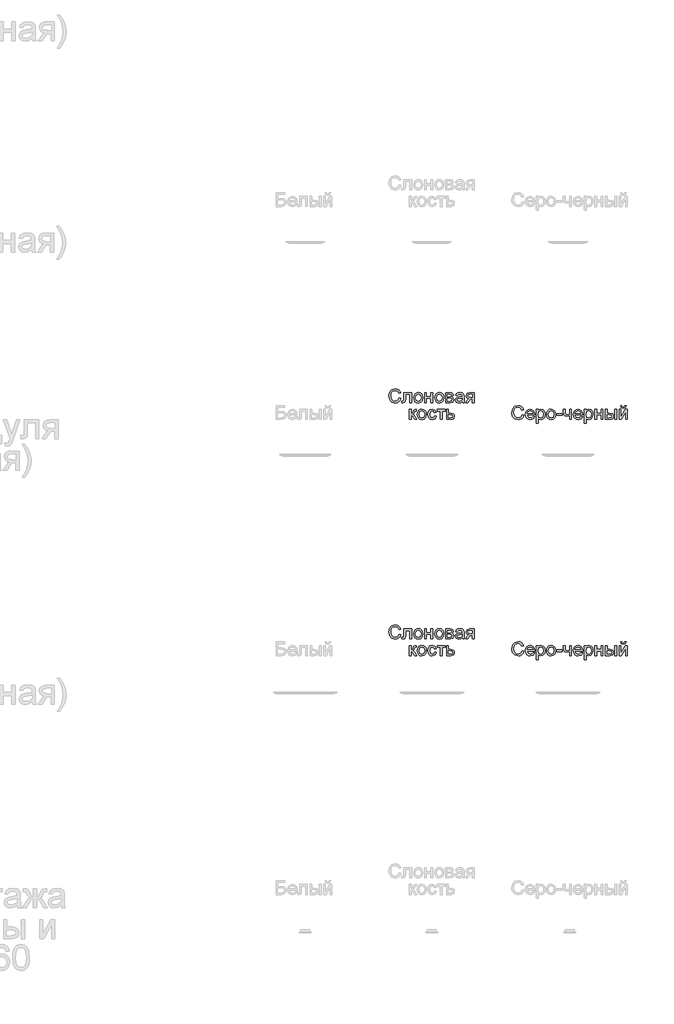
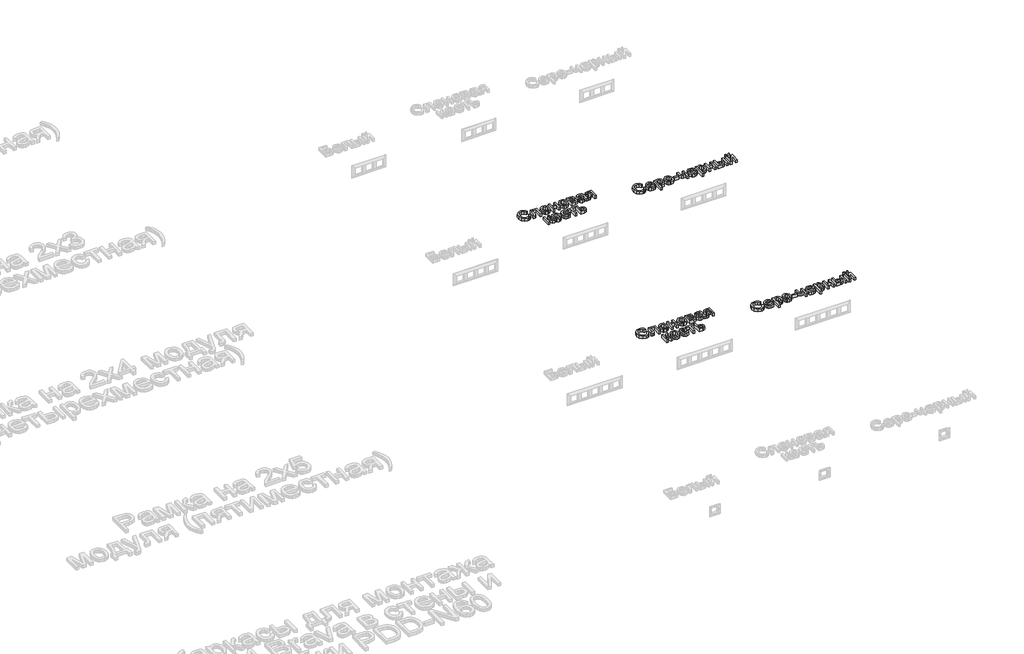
# One storey, part 39 of 47: 4 proxies.
"""IFC4 building model written with IfcOpenShell, lengths in millimetres."""

from ifc_helpers import new_model, si_unit, origin, origin_with_axes, place, context, project, spatial, polyline, outline, extrude, element, save

model = new_model("IFC4")

# Units and contexts
model_context = context("Model", 3, world=origin())
ifc_project = project(units=[si_unit("LENGTHUNIT", "METRE", prefix="MILLI")], contexts=[model_context])

# Site, building, storey
site = spatial("IfcSite", under=ifc_project)
building = spatial("IfcBuilding", under=site)
storey = spatial("IfcBuildingStorey", under=building, Name="Этаж 01", Elevation=0.0)

# Proxies
placement = place(None, origin())
element("IfcBuildingElementProxy", 1, Name="80 мм Arial", ObjectType="80 мм Arial", at=placement, inside=storey, context=model_context, shape_type="SweptSolid", body=[
    extrude(outline(polyline([(554.1498044, -633.9552001), (564.1954354, -636.5450894), (559.5601223, -648.2510945), (552.2858689, -656.8031246), (542.7307473, -662.0344066), (531.252829, -663.7781672), (510.3473215, -658.5002869), (498.0845883, -643.2160162), (493.8760183, -621.7317077), (498.6339588, -599.8942325), (512.162206, -585.7381333), (531.4686531, -580.9017114), (542.48304, -582.4664361), (551.5893457, -587.1606104), (558.5030747, -594.6948336), (562.9397315, -604.7797054), (552.8941005, -607.1733909), (544.6535438, -594.822366), (531.0762456, -590.9473424), (515.3603268, -595.2442041), (506.482108, -606.7809834), (503.9216493, -621.7120873), (506.9529969, -639.0172564), (516.3903964, -650.0733366), (530.25219, -653.7325362), (545.6247523, -648.7489614), (554.1498044, -633.9552001)])), origin_with_axes(), (0.0, 0.0, 1.0), 20.0),
    extrude(outline(polyline([(581.7752897, -603.5043811), (626.9806292, -603.5043811), (626.9806292, -662.4636022), (616.9349982, -662.4636022), (616.9349982, -613.5500122), (591.8209207, -613.5500122), (591.8209207, -641.7052475), (591.1440178, -654.6939345), (587.4259571, -660.1778288), (578.63603, -662.5224633), (570.4739548, -662.0123336), (570.4739548, -652.4768323), (574.9670202, -652.4768323), (579.5091366, -651.8587906), (581.3240211, -649.8967533), (581.7752897, -641.1362567), (581.7752897, -603.5043811)])), origin_with_axes(), (0.0, 0.0, 1.0), 20.0),
    extrude(outline(polyline([(639.537668, -633.0134222), (641.7106243, -618.7837467), (648.2294933, -608.7822615), (656.2836564, -603.8820733), (665.9270698, -602.2486773), (676.480378, -604.2376926), (684.9097807, -610.2047385), (690.4353683, -619.6789262), (692.2772308, -632.1893666), (689.0202489, -650.0635264), (679.5337985, -660.1778288), (665.9270698, -663.7781672), (655.2462292, -661.7965095), (646.8266366, -655.8515365), (641.3599102, -646.1786926), (639.537668, -633.0134222)]), holes=[polyline([(649.583299, -632.9938019), (654.2333274, -648.5625679), (665.9270698, -653.7325362), (677.5815714, -648.5331373), (682.2315998, -632.6798759), (677.5521408, -617.4642766), (665.9270698, -612.2943083), (654.2333274, -617.4446562), (649.583299, -632.9938019)])]), origin_with_axes(), (0.0, 0.0, 1.0), 20.0),
    extrude(outline(polyline([(703.5785657, -603.5043811), (713.6241967, -603.5043811), (713.6241967, -626.1070509), (739.9939782, -626.1070509), (739.9939782, -603.5043811), (750.0396092, -603.5043811), (750.0396092, -662.5224633), (739.9939782, -662.5224633), (739.9939782, -636.1526819), (713.6241967, -636.1526819), (713.6241967, -662.5224633), (703.5785657, -662.5224633), (703.5785657, -603.5043811)])), origin_with_axes(), (0.0, 0.0, 1.0), 20.0),
    extrude(outline(polyline([(762.5966479, -633.0134222), (764.7696043, -618.7837467), (771.2884732, -608.7822615), (779.3426364, -603.8820733), (788.9860497, -602.2486773), (799.5393579, -604.2376926), (807.9687607, -610.2047385), (813.4943483, -619.6789262), (815.3362108, -632.1893666), (812.0792288, -650.0635264), (802.5927785, -660.1778288), (788.9860497, -663.7781672), (778.3052091, -661.7965095), (769.8856165, -655.8515365), (764.4188901, -646.1786926), (762.5966479, -633.0134222)]), holes=[polyline([(772.642279, -632.9938019), (777.2923074, -648.5625679), (788.9860497, -653.7325362), (800.6405513, -648.5331373), (805.2905798, -632.6798759), (800.6111208, -617.4642766), (788.9860497, -612.2943083), (777.2923074, -617.4446562), (772.642279, -632.9938019)])]), origin_with_axes(), (0.0, 0.0, 1.0), 20.0),
    extrude(outline(polyline([(826.6375457, -603.5043811), (848.7693265, -603.5043811), (860.9045272, -604.8483767), (867.7324171, -609.7730903), (870.5871814, -618.3570036), (868.8605885, -625.3320462), (863.6611897, -630.3058108), (870.410598, -635.7504643), (873.0985891, -645.2172943), (867.3498198, -658.2648424), (852.163651, -662.5224633), (826.6375457, -662.5224633), (826.6375457, -603.5043811)]), holes=[polyline([(836.6831767, -626.1070509), (846.6110855, -626.1070509), (854.8025912, -625.5969212), (858.7855269, -623.5564024), (860.5415503, -619.8677723), (857.4611518, -614.9430586), (846.9250114, -613.5500122), (836.6831767, -613.5500122), (836.6831767, -626.1070509)]), polyline([(836.6831767, -652.4768323), (849.004771, -652.4768323), (859.9333188, -650.6619478), (863.0529581, -644.3932386), (861.3361754, -639.5568167), (856.8627304, -636.7412931), (848.0237523, -636.1526819), (836.6831767, -636.1526819), (836.6831767, -652.4768323)])]), origin_with_axes(), (0.0, 0.0, 1.0), 20.0),
    extrude(outline(polyline([(923.3267442, -654.9882401), (913.585229, -661.7965095), (902.8234543, -663.7781672), (888.2357069, -659.0104166), (883.1442201, -646.8261649), (885.0670167, -638.8799138), (890.1192628, -633.1115241), (897.1531665, -629.8153014), (905.8449918, -628.3045327), (923.2678831, -624.851347), (923.3267442, -622.6146245), (920.5602716, -615.1981235), (909.4551404, -612.2943083), (899.2917872, -614.226915), (894.445555, -621.0842354), (884.399924, -619.8285315), (888.7458366, -610.018345), (897.496523, -604.2695757), (910.750085, -602.2486773), (922.9245265, -604.0341312), (929.8014673, -608.5173865), (932.8818659, -615.3354661), (933.3723752, -624.1253932), (933.3723752, -636.6235709), (933.8825049, -654.0758927), (935.883783, -662.5224633), (925.8381519, -662.5224633), (923.3267442, -654.9882401)]), holes=[polyline([(923.3267442, -634.8969781), (907.120316, -637.9773766), (898.4775417, -639.6058676), (894.5632773, -642.254618), (893.1898511, -646.1198315), (896.181958, -651.5546748), (904.962075, -653.7325362), (915.1254282, -651.3290405), (921.6786328, -645.5115999), (923.2678831, -637.7419322), (923.3267442, -634.8969781)])]), origin_with_axes(), (0.0, 0.0, 1.0), 20.0),
    extrude(outline(polyline([(992.3904574, -603.5043811), (992.3904574, -662.5224633), (982.3448264, -662.5224633), (982.3448264, -639.9197936), (976.8707423, -639.9197936), (969.4150005, -641.1951178), (962.4105274, -649.7692208), (954.4054151, -662.5224633), (942.7901543, -662.5224633), (952.875026, -646.3945167), (961.4295087, -638.0362377), (949.7357663, -631.9343017), (945.929414, -620.5544853), (951.1288128, -608.232891), (966.177639, -603.5043811), (992.3904574, -603.5043811)]), holes=[polyline([(982.3448264, -613.5500122), (969.1010746, -613.5500122), (958.3785407, -615.8750264), (955.975045, -621.3196799), (959.5165223, -627.8042132), (972.0637509, -629.8741625), (982.3448264, -629.8741625), (982.3448264, -613.5500122)])]), origin_with_axes(), (0.0, 0.0, 1.0), 20.0),
    extrude(outline(polyline([(613.7957385, -701.0842354), (623.8413695, -701.0842354), (623.8413695, -726.1983129), (630.5711575, -724.3932386), (636.0844823, -713.8767187), (640.6658395, -704.8022961), (644.7076363, -701.84943), (652.055466, -701.0842354), (653.9782626, -701.0842354), (653.9782626, -711.1887275), (651.2706511, -711.1298664), (646.3655578, -712.1893666), (642.9123722, -718.8014323), (638.8607651, -725.9530583), (633.1806671, -729.4552949), (639.5180476, -733.3646542), (645.7377059, -741.6003058), (656.4896703, -760.1023176), (645.0706132, -760.1023176), (634.5344729, -741.9927133), (629.2369721, -734.3309576), (623.8413695, -732.4768323), (623.8413695, -760.1023176), (613.7957385, -760.1023176), (613.7957385, -701.0842354)])), origin_with_axes(), (0.0, 0.0, 1.0), 20.0),
    extrude(outline(polyline([(660.256782, -730.5932765), (662.4297383, -716.3636009), (668.9486073, -706.3621158), (677.0027704, -701.4619276), (686.6461838, -699.8285315), (697.1994919, -701.8175469), (705.6288947, -707.7845928), (711.1544823, -717.2587805), (712.9963448, -729.7692208), (709.7393629, -747.6433807), (700.2529125, -757.757683), (686.6461838, -761.3580215), (675.9653432, -759.3763638), (667.5457506, -753.4313908), (662.0790241, -743.7585469), (660.256782, -730.5932765)]), holes=[polyline([(670.302413, -730.5736561), (674.9524414, -746.1424222), (686.6461838, -751.3123905), (698.3006854, -746.1129916), (702.9507138, -730.2597302), (698.2712548, -715.0441309), (686.6461838, -709.8741625), (674.9524414, -715.0245105), (670.302413, -730.5736561)])]), origin_with_axes(), (0.0, 0.0, 1.0), 20.0),
    extrude(outline(polyline([(761.968796, -738.7553517), (772.014427, -740.0110556), (769.2136188, -748.945683), (763.9504537, -755.6975439), (748.0187107, -761.3580215), (737.3329651, -759.3837215), (728.9771387, -753.4608213), (723.5839886, -743.8492911), (721.7862719, -730.8091006), (724.8568603, -714.1219733), (734.2157783, -703.3994394), (747.8813681, -699.8285315), (763.1558286, -704.7336248), (770.7587231, -718.6640897), (760.7130921, -719.9197936), (756.0532535, -712.3953805), (747.9598496, -709.8741625), (736.3151582, -714.8381169), (731.831903, -730.5344154), (736.2170563, -746.3778667), (747.6851644, -751.3123905), (757.1519944, -748.2319919), (761.968796, -738.7553517)])), origin_with_axes(), (0.0, 0.0, 1.0), 20.0),
    extrude(outline(polyline([(775.7815387, -701.0842354), (823.498286, -701.0842354), (823.498286, -711.1298664), (804.6627278, -711.1298664), (804.6627278, -760.1023176), (794.6170968, -760.1023176), (794.6170968, -711.1298664), (775.7815387, -711.1298664), (775.7815387, -701.0842354)])), origin_with_axes(), (0.0, 0.0, 1.0), 20.0),
    extrude(outline(polyline([(832.2882131, -701.0842354), (842.3338441, -701.0842354), (842.3338441, -722.4312013), (853.9098642, -722.4312013), (871.3719963, -727.463827), (875.9631636, -733.4504933), (877.4935527, -741.345241), (872.2843436, -754.598803), (865.5128624, -758.726439), (855.6168367, -760.1023176), (832.2882131, -760.1023176), (832.2882131, -701.0842354)]), holes=[polyline([(842.3338441, -750.0566866), (851.7123825, -750.0566866), (863.8279628, -747.9474965), (867.4479217, -741.3648613), (864.7697407, -735.1844438), (852.9092252, -732.4768323), (842.3338441, -732.4768323), (842.3338441, -750.0566866)])]), origin_with_axes(), (0.0, 0.0, 1.0), 20.0),
])
element("IfcBuildingElementProxy", 2, Name="80 мм Arial", ObjectType="80 мм Arial", at=placement, inside=storey, context=model_context, shape_type="SweptSolid", body=[
    extrude(outline(polyline([(1272.5444141, -731.5350544), (1282.5900451, -734.1249437), (1277.954732, -745.8309488), (1270.6804787, -754.3829789), (1261.125357, -759.6142608), (1249.6474387, -761.3580215), (1228.7419312, -756.0801411), (1216.4791981, -740.7958705), (1212.270628, -719.311562), (1217.0285685, -697.4740868), (1230.5568157, -683.3179876), (1249.8632628, -678.4815656), (1260.8776498, -680.0462904), (1269.9839554, -684.7404646), (1276.8976844, -692.2746879), (1281.3343413, -702.3595597), (1271.2887102, -704.7532452), (1263.0481536, -692.4022203), (1249.4708554, -688.5271966), (1233.7549366, -692.8240583), (1224.8767177, -704.3608377), (1222.3162591, -719.2919416), (1225.3476067, -736.5971107), (1234.7850061, -747.6531909), (1248.6467997, -751.3123905), (1264.019362, -746.3288157), (1272.5444141, -731.5350544)])), origin_with_axes(), (0.0, 0.0, 1.0), 20.0),
    extrude(outline(polyline([(1336.4675896, -742.5224633), (1346.3170169, -743.7781672), (1337.1052517, -756.7472338), (1319.9472355, -761.3580215), (1308.1602964, -759.3690062), (1299.0907789, -753.4019602), (1293.3076739, -743.844386), (1291.3799723, -731.0837858), (1293.3272943, -717.89399), (1299.1692604, -708.0298475), (1308.1161505, -701.8788605), (1319.3782447, -699.8285315), (1330.2896246, -701.8739554), (1339.0084279, -708.0102271), (1344.7253141, -717.8547493), (1346.6309429, -731.0249247), (1346.5720817, -733.7325362), (1301.4256033, -733.7325362), (1307.2038032, -746.7800843), (1320.1434392, -751.3123905), (1329.9928665, -749.2130106), (1336.4675896, -742.5224633)]), holes=[polyline([(1301.4256033, -723.6869052), (1336.5853118, -723.6869052), (1332.5631354, -714.5830521), (1319.3390039, -709.8741625), (1306.9683587, -713.631464), (1301.4256033, -723.6869052)])]), origin_with_axes(), (0.0, 0.0, 1.0), 20.0),
    extrude(outline(polyline([(1356.6765739, -782.7049874), (1356.6765739, -701.0842354), (1366.7222049, -701.0842354), (1366.7222049, -710.9336627), (1373.667817, -702.6048143), (1383.0463553, -699.8285315), (1395.7799774, -703.7133654), (1404.0990156, -714.6615336), (1406.904729, -730.1420079), (1403.7360387, -746.4171074), (1394.5340837, -757.5026182), (1381.8298922, -761.3580215), (1373.089016, -758.7779424), (1366.7222049, -752.2541684), (1366.7222049, -782.7049874), (1356.6765739, -782.7049874)]), holes=[polyline([(1366.7222049, -731.0641655), (1371.0681175, -746.3680565), (1381.6140681, -751.3123905), (1392.3758427, -746.1914731), (1396.8590979, -730.3185913), (1392.4837547, -714.9754595), (1382.0260959, -709.8741625), (1371.3624231, -715.2991957), (1366.7222049, -731.0641655)])]), origin_with_axes(), (0.0, 0.0, 1.0), 20.0),
    extrude(outline(polyline([(1415.6946561, -730.5932765), (1417.8676124, -716.3636009), (1424.3864814, -706.3621158), (1432.4406445, -701.4619276), (1442.0840579, -699.8285315), (1452.637366, -701.8175469), (1461.0667688, -707.7845928), (1466.5923564, -717.2587805), (1468.4342189, -729.7692208), (1465.177237, -747.6433807), (1455.6907866, -757.757683), (1442.0840579, -761.3580215), (1431.4032173, -759.3763638), (1422.9836247, -753.4313908), (1417.5168982, -743.7585469), (1415.6946561, -730.5932765)]), holes=[polyline([(1425.7402871, -730.5736561), (1430.3903155, -746.1424222), (1442.0840579, -751.3123905), (1453.7385595, -746.1129916), (1458.3885879, -730.2597302), (1453.7091289, -715.0441309), (1442.0840579, -709.8741625), (1430.3903155, -715.0245105), (1425.7402871, -730.5736561)])]), origin_with_axes(), (0.0, 0.0, 1.0), 20.0),
    extrude(outline(polyline([(1474.7127383, -736.243944), (1474.7127383, -726.1983129), (1506.1053352, -726.1983129), (1506.1053352, -736.243944), (1474.7127383, -736.243944)])), origin_with_axes(), (0.0, 0.0, 1.0), 20.0),
    extrude(outline(polyline([(1513.6395585, -701.0842354), (1523.6851895, -701.0842354), (1523.6851895, -712.4051907), (1524.499435, -723.0198125), (1528.4136994, -728.7685818), (1536.1833671, -731.2211285), (1550.0549709, -728.1799706), (1550.0549709, -701.0842354), (1560.1006019, -701.0842354), (1560.1006019, -760.1023176), (1550.0549709, -760.1023176), (1550.0549709, -737.8135738), (1533.495376, -741.2667595), (1522.1057495, -737.666421), (1515.4053921, -728.8470633), (1513.6395585, -717.3691451), (1513.6395585, -701.0842354)])), origin_with_axes(), (0.0, 0.0, 1.0), 20.0),
    extrude(outline(polyline([(1616.4895541, -742.5224633), (1626.3389814, -743.7781672), (1617.1272163, -756.7472338), (1599.9692, -761.3580215), (1588.1822609, -759.3690062), (1579.1127434, -753.4019602), (1573.3296385, -743.844386), (1571.4019368, -731.0837858), (1573.3492588, -717.89399), (1579.1912249, -708.0298475), (1588.1381151, -701.8788605), (1599.4002092, -699.8285315), (1610.3115892, -701.8739554), (1619.0303925, -708.0102271), (1624.7472787, -717.8547493), (1626.6529074, -731.0249247), (1626.5940463, -733.7325362), (1581.4475678, -733.7325362), (1587.2257677, -746.7800843), (1600.1654038, -751.3123905), (1610.014831, -749.2130106), (1616.4895541, -742.5224633)]), holes=[polyline([(1581.4475678, -723.6869052), (1616.6072764, -723.6869052), (1612.5850999, -714.5830521), (1599.3609685, -709.8741625), (1586.9903232, -713.631464), (1581.4475678, -723.6869052)])]), origin_with_axes(), (0.0, 0.0, 1.0), 20.0),
    extrude(outline(polyline([(1636.6985384, -782.7049874), (1636.6985384, -701.0842354), (1646.7441694, -701.0842354), (1646.7441694, -710.9336627), (1653.6897815, -702.6048143), (1663.0683198, -699.8285315), (1675.801942, -703.7133654), (1684.1209801, -714.6615336), (1686.9266935, -730.1420079), (1683.7580032, -746.4171074), (1674.5560483, -757.5026182), (1661.8518567, -761.3580215), (1653.1109805, -758.7779424), (1646.7441694, -752.2541684), (1646.7441694, -782.7049874), (1636.6985384, -782.7049874)]), holes=[polyline([(1646.7441694, -731.0641655), (1651.0900821, -746.3680565), (1661.6360326, -751.3123905), (1672.3978072, -746.1914731), (1676.8810625, -730.3185913), (1672.5057193, -714.9754595), (1662.0480604, -709.8741625), (1651.3843877, -715.2991957), (1646.7441694, -731.0641655)])]), origin_with_axes(), (0.0, 0.0, 1.0), 20.0),
    extrude(outline(polyline([(1698.2280284, -701.0842354), (1708.2736594, -701.0842354), (1708.2736594, -723.6869052), (1734.6434408, -723.6869052), (1734.6434408, -701.0842354), (1744.6890718, -701.0842354), (1744.6890718, -760.1023176), (1734.6434408, -760.1023176), (1734.6434408, -733.7325362), (1708.2736594, -733.7325362), (1708.2736594, -760.1023176), (1698.2280284, -760.1023176), (1698.2280284, -701.0842354)])), origin_with_axes(), (0.0, 0.0, 1.0), 20.0),
    extrude(outline(polyline([(1815.0084889, -701.0842354), (1825.0541199, -701.0842354), (1825.0541199, -760.1023176), (1815.0084889, -760.1023176), (1815.0084889, -701.0842354)])), origin_with_axes(), (0.0, 0.0, 1.0), 20.0),
    extrude(outline(polyline([(1759.7575184, -701.0842354), (1769.8031494, -701.0842354), (1769.8031494, -722.4312013), (1782.2228455, -722.4312013), (1800.9112509, -727.463827), (1805.833512, -733.4504933), (1807.4742657, -741.345241), (1801.970751, -754.598803), (1794.8215776, -758.726439), (1784.3810866, -760.1023176), (1759.7575184, -760.1023176), (1759.7575184, -701.0842354)]), holes=[polyline([(1769.8031494, -750.0566866), (1780.1234656, -750.0566866), (1793.4456989, -747.9474965), (1797.4286347, -741.3648613), (1794.4757685, -735.1844438), (1781.4380306, -732.4768323), (1769.8031494, -732.4768323), (1769.8031494, -750.0566866)])]), origin_with_axes(), (0.0, 0.0, 1.0), 20.0),
    extrude(outline(polyline([(1840.1225665, -701.0842354), (1850.1681975, -701.0842354), (1850.1681975, -746.0933712), (1874.8506268, -701.0842354), (1887.8393138, -701.0842354), (1887.8393138, -760.1023176), (1877.7936828, -760.1023176), (1877.7936828, -715.367867), (1853.2682164, -760.1023176), (1840.1225665, -760.1023176), (1840.1225665, -701.0842354)])), origin_with_axes(), (0.0, 0.0, 1.0), 20.0),
    extrude(outline(polyline([(1872.7708673, -679.7372695), (1880.3050905, -679.7372695), (1875.4294278, -690.911072), (1864.6087921, -694.805716), (1852.8954293, -690.9405025), (1847.6567897, -679.7372695), (1855.191013, -679.7372695), (1858.0163467, -685.3977471), (1863.7062549, -687.2714928), (1869.9455335, -685.4566083), (1872.7708673, -679.7372695)])), origin_with_axes(), (0.0, 0.0, 1.0), 20.0),
])
element("IfcBuildingElementProxy", 3, Name="80 мм Arial", ObjectType="80 мм Arial", at=placement, inside=storey, context=model_context, shape_type="SweptSolid", body=[
    extrude(outline(polyline([(554.1498044, -2013.9552001), (564.1954354, -2016.5450894), (559.5601223, -2028.2510945), (552.2858689, -2036.8031246), (542.7307473, -2042.0344066), (531.252829, -2043.7781672), (510.3473215, -2038.5002869), (498.0845883, -2023.2160162), (493.8760183, -2001.7317077), (498.6339588, -1979.8942325), (512.162206, -1965.7381333), (531.4686531, -1960.9017114), (542.48304, -1962.4664361), (551.5893457, -1967.1606104), (558.5030747, -1974.6948336), (562.9397315, -1984.7797054), (552.8941005, -1987.1733909), (544.6535438, -1974.822366), (531.0762456, -1970.9473424), (515.3603268, -1975.2442041), (506.482108, -1986.7809834), (503.9216493, -2001.7120873), (506.9529969, -2019.0172564), (516.3903964, -2030.0733366), (530.25219, -2033.7325362), (545.6247523, -2028.7489614), (554.1498044, -2013.9552001)])), origin_with_axes(), (0.0, 0.0, 1.0), 20.0),
    extrude(outline(polyline([(581.7752897, -1983.5043811), (626.9806292, -1983.5043811), (626.9806292, -2042.4636022), (616.9349982, -2042.4636022), (616.9349982, -1993.5500122), (591.8209207, -1993.5500122), (591.8209207, -2021.7052475), (591.1440178, -2034.6939345), (587.4259571, -2040.1778288), (578.63603, -2042.5224633), (570.4739548, -2042.0123336), (570.4739548, -2032.4768323), (574.9670202, -2032.4768323), (579.5091366, -2031.8587906), (581.3240211, -2029.8967533), (581.7752897, -2021.1362567), (581.7752897, -1983.5043811)])), origin_with_axes(), (0.0, 0.0, 1.0), 20.0),
    extrude(outline(polyline([(639.537668, -2013.0134222), (641.7106243, -1998.7837467), (648.2294933, -1988.7822615), (656.2836564, -1983.8820733), (665.9270698, -1982.2486773), (676.480378, -1984.2376926), (684.9097807, -1990.2047385), (690.4353683, -1999.6789262), (692.2772308, -2012.1893666), (689.0202489, -2030.0635264), (679.5337985, -2040.1778288), (665.9270698, -2043.7781672), (655.2462292, -2041.7965095), (646.8266366, -2035.8515365), (641.3599102, -2026.1786926), (639.537668, -2013.0134222)]), holes=[polyline([(649.583299, -2012.9938019), (654.2333274, -2028.5625679), (665.9270698, -2033.7325362), (677.5815714, -2028.5331373), (682.2315998, -2012.6798759), (677.5521408, -1997.4642766), (665.9270698, -1992.2943083), (654.2333274, -1997.4446562), (649.583299, -2012.9938019)])]), origin_with_axes(), (0.0, 0.0, 1.0), 20.0),
    extrude(outline(polyline([(703.5785657, -1983.5043811), (713.6241967, -1983.5043811), (713.6241967, -2006.1070509), (739.9939782, -2006.1070509), (739.9939782, -1983.5043811), (750.0396092, -1983.5043811), (750.0396092, -2042.5224633), (739.9939782, -2042.5224633), (739.9939782, -2016.1526819), (713.6241967, -2016.1526819), (713.6241967, -2042.5224633), (703.5785657, -2042.5224633), (703.5785657, -1983.5043811)])), origin_with_axes(), (0.0, 0.0, 1.0), 20.0),
    extrude(outline(polyline([(762.5966479, -2013.0134222), (764.7696043, -1998.7837467), (771.2884732, -1988.7822615), (779.3426364, -1983.8820733), (788.9860497, -1982.2486773), (799.5393579, -1984.2376926), (807.9687607, -1990.2047385), (813.4943483, -1999.6789262), (815.3362108, -2012.1893666), (812.0792288, -2030.0635264), (802.5927785, -2040.1778288), (788.9860497, -2043.7781672), (778.3052091, -2041.7965095), (769.8856165, -2035.8515365), (764.4188901, -2026.1786926), (762.5966479, -2013.0134222)]), holes=[polyline([(772.642279, -2012.9938019), (777.2923074, -2028.5625679), (788.9860497, -2033.7325362), (800.6405513, -2028.5331373), (805.2905798, -2012.6798759), (800.6111208, -1997.4642766), (788.9860497, -1992.2943083), (777.2923074, -1997.4446562), (772.642279, -2012.9938019)])]), origin_with_axes(), (0.0, 0.0, 1.0), 20.0),
    extrude(outline(polyline([(826.6375457, -1983.5043811), (848.7693265, -1983.5043811), (860.9045272, -1984.8483767), (867.7324171, -1989.7730903), (870.5871814, -1998.3570036), (868.8605885, -2005.3320462), (863.6611897, -2010.3058108), (870.410598, -2015.7504643), (873.0985891, -2025.2172943), (867.3498198, -2038.2648424), (852.163651, -2042.5224633), (826.6375457, -2042.5224633), (826.6375457, -1983.5043811)]), holes=[polyline([(836.6831767, -2006.1070509), (846.6110855, -2006.1070509), (854.8025912, -2005.5969212), (858.7855269, -2003.5564024), (860.5415503, -1999.8677723), (857.4611518, -1994.9430586), (846.9250114, -1993.5500122), (836.6831767, -1993.5500122), (836.6831767, -2006.1070509)]), polyline([(836.6831767, -2032.4768323), (849.004771, -2032.4768323), (859.9333188, -2030.6619478), (863.0529581, -2024.3932386), (861.3361754, -2019.5568167), (856.8627304, -2016.7412931), (848.0237523, -2016.1526819), (836.6831767, -2016.1526819), (836.6831767, -2032.4768323)])]), origin_with_axes(), (0.0, 0.0, 1.0), 20.0),
    extrude(outline(polyline([(923.3267442, -2034.9882401), (913.585229, -2041.7965095), (902.8234543, -2043.7781672), (888.2357069, -2039.0104166), (883.1442201, -2026.8261649), (885.0670167, -2018.8799138), (890.1192628, -2013.1115241), (897.1531665, -2009.8153014), (905.8449918, -2008.3045327), (923.2678831, -2004.851347), (923.3267442, -2002.6146245), (920.5602716, -1995.1981235), (909.4551404, -1992.2943083), (899.2917872, -1994.226915), (894.445555, -2001.0842354), (884.399924, -1999.8285315), (888.7458366, -1990.018345), (897.496523, -1984.2695757), (910.750085, -1982.2486773), (922.9245265, -1984.0341312), (929.8014673, -1988.5173865), (932.8818659, -1995.3354661), (933.3723752, -2004.1253932), (933.3723752, -2016.6235709), (933.8825049, -2034.0758927), (935.883783, -2042.5224633), (925.8381519, -2042.5224633), (923.3267442, -2034.9882401)]), holes=[polyline([(923.3267442, -2014.8969781), (907.120316, -2017.9773766), (898.4775417, -2019.6058676), (894.5632773, -2022.254618), (893.1898511, -2026.1198315), (896.181958, -2031.5546748), (904.962075, -2033.7325362), (915.1254282, -2031.3290405), (921.6786328, -2025.5115999), (923.2678831, -2017.7419322), (923.3267442, -2014.8969781)])]), origin_with_axes(), (0.0, 0.0, 1.0), 20.0),
    extrude(outline(polyline([(992.3904574, -1983.5043811), (992.3904574, -2042.5224633), (982.3448264, -2042.5224633), (982.3448264, -2019.9197936), (976.8707423, -2019.9197936), (969.4150005, -2021.1951178), (962.4105274, -2029.7692208), (954.4054151, -2042.5224633), (942.7901543, -2042.5224633), (952.875026, -2026.3945167), (961.4295087, -2018.0362377), (949.7357663, -2011.9343017), (945.929414, -2000.5544853), (951.1288128, -1988.232891), (966.177639, -1983.5043811), (992.3904574, -1983.5043811)]), holes=[polyline([(982.3448264, -1993.5500122), (969.1010746, -1993.5500122), (958.3785407, -1995.8750264), (955.975045, -2001.3196799), (959.5165223, -2007.8042132), (972.0637509, -2009.8741625), (982.3448264, -2009.8741625), (982.3448264, -1993.5500122)])]), origin_with_axes(), (0.0, 0.0, 1.0), 20.0),
    extrude(outline(polyline([(613.7957385, -2081.0842354), (623.8413695, -2081.0842354), (623.8413695, -2106.1983129), (630.5711575, -2104.3932386), (636.0844823, -2093.8767187), (640.6658395, -2084.8022961), (644.7076363, -2081.84943), (652.055466, -2081.0842354), (653.9782626, -2081.0842354), (653.9782626, -2091.1887275), (651.2706511, -2091.1298664), (646.3655578, -2092.1893666), (642.9123722, -2098.8014323), (638.8607651, -2105.9530583), (633.1806671, -2109.4552949), (639.5180476, -2113.3646542), (645.7377059, -2121.6003058), (656.4896703, -2140.1023176), (645.0706132, -2140.1023176), (634.5344729, -2121.9927133), (629.2369721, -2114.3309576), (623.8413695, -2112.4768323), (623.8413695, -2140.1023176), (613.7957385, -2140.1023176), (613.7957385, -2081.0842354)])), origin_with_axes(), (0.0, 0.0, 1.0), 20.0),
    extrude(outline(polyline([(660.256782, -2110.5932765), (662.4297383, -2096.3636009), (668.9486073, -2086.3621158), (677.0027704, -2081.4619276), (686.6461838, -2079.8285315), (697.1994919, -2081.8175469), (705.6288947, -2087.7845928), (711.1544823, -2097.2587805), (712.9963448, -2109.7692208), (709.7393629, -2127.6433807), (700.2529125, -2137.757683), (686.6461838, -2141.3580215), (675.9653432, -2139.3763638), (667.5457506, -2133.4313908), (662.0790241, -2123.7585469), (660.256782, -2110.5932765)]), holes=[polyline([(670.302413, -2110.5736561), (674.9524414, -2126.1424222), (686.6461838, -2131.3123905), (698.3006854, -2126.1129916), (702.9507138, -2110.2597302), (698.2712548, -2095.0441309), (686.6461838, -2089.8741625), (674.9524414, -2095.0245105), (670.302413, -2110.5736561)])]), origin_with_axes(), (0.0, 0.0, 1.0), 20.0),
    extrude(outline(polyline([(761.968796, -2118.7553517), (772.014427, -2120.0110556), (769.2136188, -2128.945683), (763.9504537, -2135.6975439), (748.0187107, -2141.3580215), (737.3329651, -2139.3837215), (728.9771387, -2133.4608213), (723.5839886, -2123.8492911), (721.7862719, -2110.8091006), (724.8568603, -2094.1219733), (734.2157783, -2083.3994394), (747.8813681, -2079.8285315), (763.1558286, -2084.7336248), (770.7587231, -2098.6640897), (760.7130921, -2099.9197936), (756.0532535, -2092.3953805), (747.9598496, -2089.8741625), (736.3151582, -2094.8381169), (731.831903, -2110.5344154), (736.2170563, -2126.3778667), (747.6851644, -2131.3123905), (757.1519944, -2128.2319919), (761.968796, -2118.7553517)])), origin_with_axes(), (0.0, 0.0, 1.0), 20.0),
    extrude(outline(polyline([(775.7815387, -2081.0842354), (823.498286, -2081.0842354), (823.498286, -2091.1298664), (804.6627278, -2091.1298664), (804.6627278, -2140.1023176), (794.6170968, -2140.1023176), (794.6170968, -2091.1298664), (775.7815387, -2091.1298664), (775.7815387, -2081.0842354)])), origin_with_axes(), (0.0, 0.0, 1.0), 20.0),
    extrude(outline(polyline([(832.2882131, -2081.0842354), (842.3338441, -2081.0842354), (842.3338441, -2102.4312013), (853.9098642, -2102.4312013), (871.3719963, -2107.463827), (875.9631636, -2113.4504933), (877.4935527, -2121.345241), (872.2843436, -2134.598803), (865.5128624, -2138.726439), (855.6168367, -2140.1023176), (832.2882131, -2140.1023176), (832.2882131, -2081.0842354)]), holes=[polyline([(842.3338441, -2130.0566866), (851.7123825, -2130.0566866), (863.8279628, -2127.9474965), (867.4479217, -2121.3648613), (864.7697407, -2115.1844438), (852.9092252, -2112.4768323), (842.3338441, -2112.4768323), (842.3338441, -2130.0566866)])]), origin_with_axes(), (0.0, 0.0, 1.0), 20.0),
])
element("IfcBuildingElementProxy", 4, Name="80 мм Arial", ObjectType="80 мм Arial", at=placement, inside=storey, context=model_context, shape_type="SweptSolid", body=[
    extrude(outline(polyline([(1272.5444141, -2111.5350544), (1282.5900451, -2114.1249437), (1277.954732, -2125.8309488), (1270.6804787, -2134.3829789), (1261.125357, -2139.6142608), (1249.6474387, -2141.3580215), (1228.7419312, -2136.0801411), (1216.4791981, -2120.7958705), (1212.270628, -2099.311562), (1217.0285685, -2077.4740868), (1230.5568157, -2063.3179876), (1249.8632628, -2058.4815656), (1260.8776498, -2060.0462904), (1269.9839554, -2064.7404646), (1276.8976844, -2072.2746879), (1281.3343413, -2082.3595597), (1271.2887102, -2084.7532452), (1263.0481536, -2072.4022203), (1249.4708554, -2068.5271966), (1233.7549366, -2072.8240583), (1224.8767177, -2084.3608377), (1222.3162591, -2099.2919416), (1225.3476067, -2116.5971107), (1234.7850061, -2127.6531909), (1248.6467997, -2131.3123905), (1264.019362, -2126.3288157), (1272.5444141, -2111.5350544)])), origin_with_axes(), (0.0, 0.0, 1.0), 20.0),
    extrude(outline(polyline([(1336.4675896, -2122.5224633), (1346.3170169, -2123.7781672), (1337.1052517, -2136.7472338), (1319.9472355, -2141.3580215), (1308.1602964, -2139.3690062), (1299.0907789, -2133.4019602), (1293.3076739, -2123.844386), (1291.3799723, -2111.0837858), (1293.3272943, -2097.89399), (1299.1692604, -2088.0298475), (1308.1161505, -2081.8788605), (1319.3782447, -2079.8285315), (1330.2896246, -2081.8739554), (1339.0084279, -2088.0102271), (1344.7253141, -2097.8547493), (1346.6309429, -2111.0249247), (1346.5720817, -2113.7325362), (1301.4256033, -2113.7325362), (1307.2038032, -2126.7800843), (1320.1434392, -2131.3123905), (1329.9928665, -2129.2130106), (1336.4675896, -2122.5224633)]), holes=[polyline([(1301.4256033, -2103.6869052), (1336.5853118, -2103.6869052), (1332.5631354, -2094.5830521), (1319.3390039, -2089.8741625), (1306.9683587, -2093.631464), (1301.4256033, -2103.6869052)])]), origin_with_axes(), (0.0, 0.0, 1.0), 20.0),
    extrude(outline(polyline([(1356.6765739, -2162.7049874), (1356.6765739, -2081.0842354), (1366.7222049, -2081.0842354), (1366.7222049, -2090.9336627), (1373.667817, -2082.6048143), (1383.0463553, -2079.8285315), (1395.7799774, -2083.7133654), (1404.0990156, -2094.6615336), (1406.904729, -2110.1420079), (1403.7360387, -2126.4171074), (1394.5340837, -2137.5026182), (1381.8298922, -2141.3580215), (1373.089016, -2138.7779424), (1366.7222049, -2132.2541684), (1366.7222049, -2162.7049874), (1356.6765739, -2162.7049874)]), holes=[polyline([(1366.7222049, -2111.0641655), (1371.0681175, -2126.3680565), (1381.6140681, -2131.3123905), (1392.3758427, -2126.1914731), (1396.8590979, -2110.3185913), (1392.4837547, -2094.9754595), (1382.0260959, -2089.8741625), (1371.3624231, -2095.2991957), (1366.7222049, -2111.0641655)])]), origin_with_axes(), (0.0, 0.0, 1.0), 20.0),
    extrude(outline(polyline([(1415.6946561, -2110.5932765), (1417.8676124, -2096.3636009), (1424.3864814, -2086.3621158), (1432.4406445, -2081.4619276), (1442.0840579, -2079.8285315), (1452.637366, -2081.8175469), (1461.0667688, -2087.7845928), (1466.5923564, -2097.2587805), (1468.4342189, -2109.7692208), (1465.177237, -2127.6433807), (1455.6907866, -2137.757683), (1442.0840579, -2141.3580215), (1431.4032173, -2139.3763638), (1422.9836247, -2133.4313908), (1417.5168982, -2123.7585469), (1415.6946561, -2110.5932765)]), holes=[polyline([(1425.7402871, -2110.5736561), (1430.3903155, -2126.1424222), (1442.0840579, -2131.3123905), (1453.7385595, -2126.1129916), (1458.3885879, -2110.2597302), (1453.7091289, -2095.0441309), (1442.0840579, -2089.8741625), (1430.3903155, -2095.0245105), (1425.7402871, -2110.5736561)])]), origin_with_axes(), (0.0, 0.0, 1.0), 20.0),
    extrude(outline(polyline([(1474.7127383, -2116.243944), (1474.7127383, -2106.1983129), (1506.1053352, -2106.1983129), (1506.1053352, -2116.243944), (1474.7127383, -2116.243944)])), origin_with_axes(), (0.0, 0.0, 1.0), 20.0),
    extrude(outline(polyline([(1513.6395585, -2081.0842354), (1523.6851895, -2081.0842354), (1523.6851895, -2092.4051907), (1524.499435, -2103.0198125), (1528.4136994, -2108.7685818), (1536.1833671, -2111.2211285), (1550.0549709, -2108.1799706), (1550.0549709, -2081.0842354), (1560.1006019, -2081.0842354), (1560.1006019, -2140.1023176), (1550.0549709, -2140.1023176), (1550.0549709, -2117.8135738), (1533.495376, -2121.2667595), (1522.1057495, -2117.666421), (1515.4053921, -2108.8470633), (1513.6395585, -2097.3691451), (1513.6395585, -2081.0842354)])), origin_with_axes(), (0.0, 0.0, 1.0), 20.0),
    extrude(outline(polyline([(1616.4895541, -2122.5224633), (1626.3389814, -2123.7781672), (1617.1272163, -2136.7472338), (1599.9692, -2141.3580215), (1588.1822609, -2139.3690062), (1579.1127434, -2133.4019602), (1573.3296385, -2123.844386), (1571.4019368, -2111.0837858), (1573.3492588, -2097.89399), (1579.1912249, -2088.0298475), (1588.1381151, -2081.8788605), (1599.4002092, -2079.8285315), (1610.3115892, -2081.8739554), (1619.0303925, -2088.0102271), (1624.7472787, -2097.8547493), (1626.6529074, -2111.0249247), (1626.5940463, -2113.7325362), (1581.4475678, -2113.7325362), (1587.2257677, -2126.7800843), (1600.1654038, -2131.3123905), (1610.014831, -2129.2130106), (1616.4895541, -2122.5224633)]), holes=[polyline([(1581.4475678, -2103.6869052), (1616.6072764, -2103.6869052), (1612.5850999, -2094.5830521), (1599.3609685, -2089.8741625), (1586.9903232, -2093.631464), (1581.4475678, -2103.6869052)])]), origin_with_axes(), (0.0, 0.0, 1.0), 20.0),
    extrude(outline(polyline([(1636.6985384, -2162.7049874), (1636.6985384, -2081.0842354), (1646.7441694, -2081.0842354), (1646.7441694, -2090.9336627), (1653.6897815, -2082.6048143), (1663.0683198, -2079.8285315), (1675.801942, -2083.7133654), (1684.1209801, -2094.6615336), (1686.9266935, -2110.1420079), (1683.7580032, -2126.4171074), (1674.5560483, -2137.5026182), (1661.8518567, -2141.3580215), (1653.1109805, -2138.7779424), (1646.7441694, -2132.2541684), (1646.7441694, -2162.7049874), (1636.6985384, -2162.7049874)]), holes=[polyline([(1646.7441694, -2111.0641655), (1651.0900821, -2126.3680565), (1661.6360326, -2131.3123905), (1672.3978072, -2126.1914731), (1676.8810625, -2110.3185913), (1672.5057193, -2094.9754595), (1662.0480604, -2089.8741625), (1651.3843877, -2095.2991957), (1646.7441694, -2111.0641655)])]), origin_with_axes(), (0.0, 0.0, 1.0), 20.0),
    extrude(outline(polyline([(1698.2280284, -2081.0842354), (1708.2736594, -2081.0842354), (1708.2736594, -2103.6869052), (1734.6434408, -2103.6869052), (1734.6434408, -2081.0842354), (1744.6890718, -2081.0842354), (1744.6890718, -2140.1023176), (1734.6434408, -2140.1023176), (1734.6434408, -2113.7325362), (1708.2736594, -2113.7325362), (1708.2736594, -2140.1023176), (1698.2280284, -2140.1023176), (1698.2280284, -2081.0842354)])), origin_with_axes(), (0.0, 0.0, 1.0), 20.0),
    extrude(outline(polyline([(1815.0084889, -2081.0842354), (1825.0541199, -2081.0842354), (1825.0541199, -2140.1023176), (1815.0084889, -2140.1023176), (1815.0084889, -2081.0842354)])), origin_with_axes(), (0.0, 0.0, 1.0), 20.0),
    extrude(outline(polyline([(1759.7575184, -2081.0842354), (1769.8031494, -2081.0842354), (1769.8031494, -2102.4312013), (1782.2228455, -2102.4312013), (1800.9112509, -2107.463827), (1805.833512, -2113.4504933), (1807.4742657, -2121.345241), (1801.970751, -2134.598803), (1794.8215776, -2138.726439), (1784.3810866, -2140.1023176), (1759.7575184, -2140.1023176), (1759.7575184, -2081.0842354)]), holes=[polyline([(1769.8031494, -2130.0566866), (1780.1234656, -2130.0566866), (1793.4456989, -2127.9474965), (1797.4286347, -2121.3648613), (1794.4757685, -2115.1844438), (1781.4380306, -2112.4768323), (1769.8031494, -2112.4768323), (1769.8031494, -2130.0566866)])]), origin_with_axes(), (0.0, 0.0, 1.0), 20.0),
    extrude(outline(polyline([(1840.1225665, -2081.0842354), (1850.1681975, -2081.0842354), (1850.1681975, -2126.0933712), (1874.8506268, -2081.0842354), (1887.8393138, -2081.0842354), (1887.8393138, -2140.1023176), (1877.7936828, -2140.1023176), (1877.7936828, -2095.367867), (1853.2682164, -2140.1023176), (1840.1225665, -2140.1023176), (1840.1225665, -2081.0842354)])), origin_with_axes(), (0.0, 0.0, 1.0), 20.0),
    extrude(outline(polyline([(1872.7708673, -2059.7372695), (1880.3050905, -2059.7372695), (1875.4294278, -2070.911072), (1864.6087921, -2074.805716), (1852.8954293, -2070.9405025), (1847.6567897, -2059.7372695), (1855.191013, -2059.7372695), (1858.0163467, -2065.3977471), (1863.7062549, -2067.2714928), (1869.9455335, -2065.4566083), (1872.7708673, -2059.7372695)])), origin_with_axes(), (0.0, 0.0, 1.0), 20.0),
])

save(model, "model.ifc")
